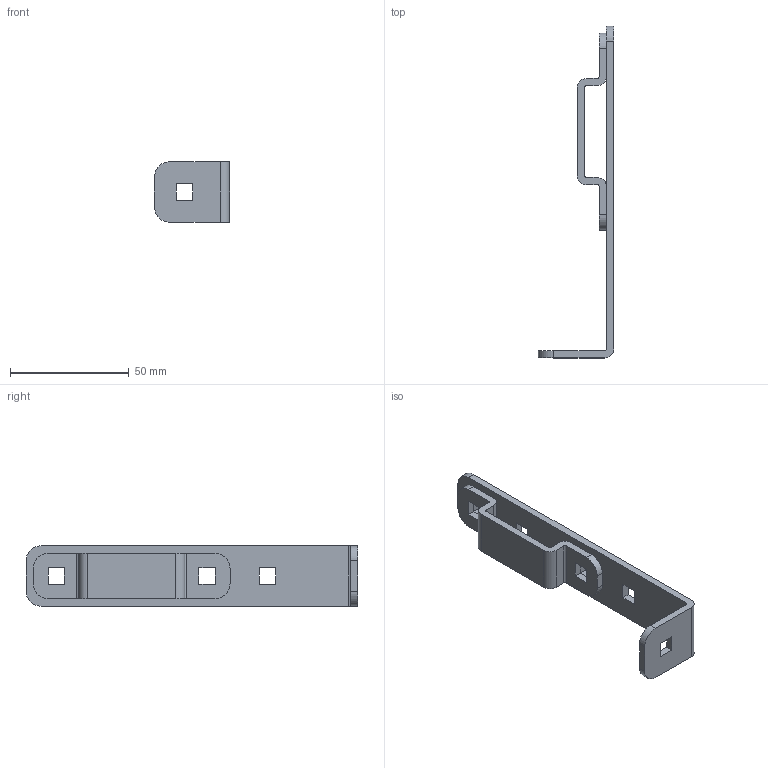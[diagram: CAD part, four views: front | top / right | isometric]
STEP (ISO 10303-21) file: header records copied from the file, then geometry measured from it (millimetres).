
FILE_DESCRIPTION (( 'STEP AP203' ), '1' );
FILE_NAME ('lek3.STEP', '2010-10-11T15:52:24', ( 'Hoffman User' ), ( 'Hoffman Enclosures' ), 'SwSTEP 2.0', 'SolidWorks 2009', '' );
FILE_SCHEMA (( 'CONFIG_CONTROL_DESIGN' ));
Length unit declared in the file: inch
Products named in the file (3): lek3; strap; ElevationBracket_3inRunway
Assembly tree (2 placements, depth 2):
  lek3
    strap
    ElevationBracket_3inRunway
Bounding box: 31.62 x 139.7 x 25.4 mm (x, y, z)
Volume: 17379.2 mm3; surface area: 13805.7 mm2
Topology: 2 solids, 2 shells, 68 faces, 192 edges, 128 vertices
Faces by surface type: plane 50, cylinder 18
Entity records: 2531 total; most frequent: CARTESIAN_POINT 393, ORIENTED_EDGE 384, DIRECTION 374, EDGE_CURVE 192, VECTOR 156, LINE 156, VERTEX_POINT 128, AXIS2_PLACEMENT_3D 109
